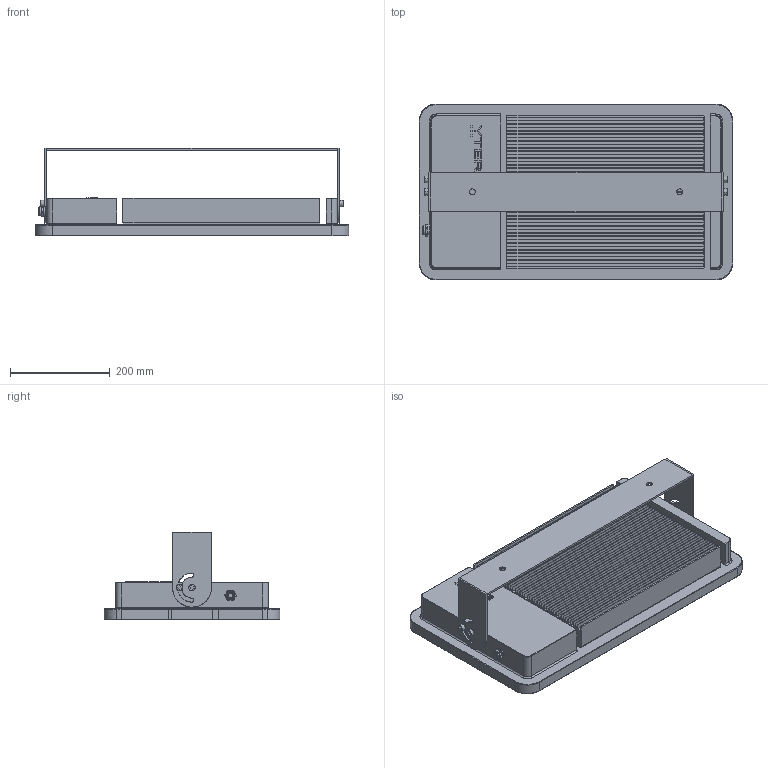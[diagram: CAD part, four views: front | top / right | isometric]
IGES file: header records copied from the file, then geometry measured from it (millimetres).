
Global section: file name: S:\0 YTER LED 2016\3D\Yter\Versi; native system: Rhinoceros ( Mar 28 2013 ); preprocessor: Trout Lake IGES 012 Mar 28 2013; author: YTER LED; organization: 17HYter Nexus; date: 160601.154923; units: millimetre
Bounding box: 627 x 352 x 175.6 mm (x, y, z)
Surface area: 1730328.2 mm2 (no closed solid volume)
Topology: 0 solids, 0 shells, 558 faces, 4422 edges, 4410 vertices
Faces by surface type: bspline 558
